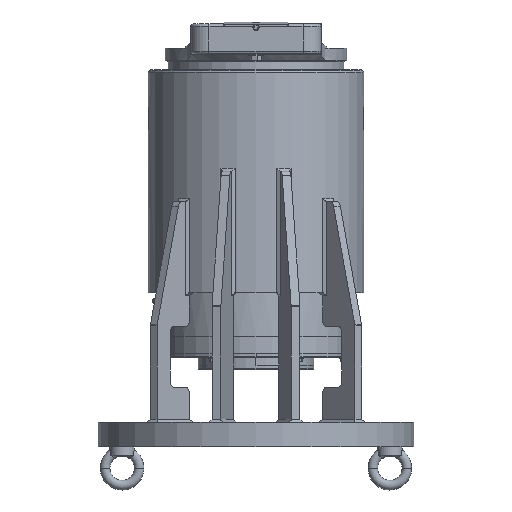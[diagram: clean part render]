
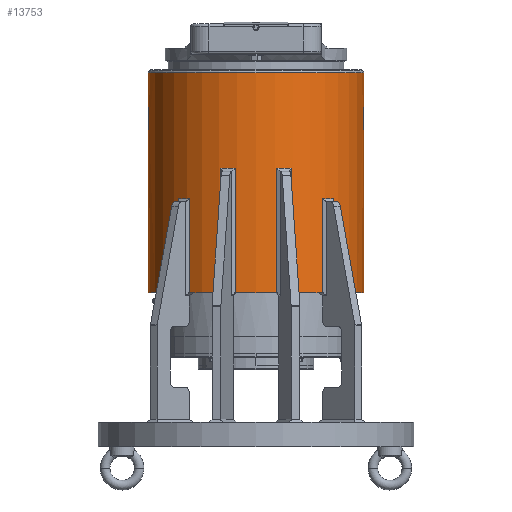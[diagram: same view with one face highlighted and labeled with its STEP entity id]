
A CAD part, front view. The second image highlights one B-rep face of the part: STEP entity #13753.
In plain terms, the highlighted cylindrical face has radius 177.5 mm (diameter 355 mm), a partial arc.
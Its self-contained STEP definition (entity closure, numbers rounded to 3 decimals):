
#12622=CARTESIAN_POINT('',(0.,0.,254.));
#12623=DIRECTION('',(0.,0.,1.));
#12624=DIRECTION('',(-1.,0.,0.));
#12625=AXIS2_PLACEMENT_3D('',#12622,#12623,#12624);
#12654=CARTESIAN_POINT('',(-177.5,0.,
521.));
#12655=CARTESIAN_POINT('',(-177.5,-0.657,
521.));
#12656=CARTESIAN_POINT('',(-177.493,-1.962,
521.064));
#12657=CARTESIAN_POINT('',(-177.46,-3.916,
521.354));
#12658=CARTESIAN_POINT('',(-177.408,-5.809,
521.829));
#12659=CARTESIAN_POINT('',(-177.338,-7.657,
522.489));
#12660=CARTESIAN_POINT('',(-177.251,-9.445,
523.334));
#12661=CARTESIAN_POINT('',(-177.154,-11.12,
524.338));
#12662=CARTESIAN_POINT('',(-177.047,-12.702,
525.51));
#12663=CARTESIAN_POINT('',(-176.936,-14.161,
526.831));
#12664=CARTESIAN_POINT('',(-176.824,-15.489,
528.296));
#12665=CARTESIAN_POINT('',(-176.718,-16.659,
529.875));
#12666=CARTESIAN_POINT('',(-176.619,-17.667,
531.558));
#12667=CARTESIAN_POINT('',(-176.533,-18.511,
533.343));
#12668=CARTESIAN_POINT('',(-176.462,-19.168,
535.182));
#12669=CARTESIAN_POINT('',(-176.409,-19.648,
537.091));
#12670=CARTESIAN_POINT('',(-176.377,-19.938,
539.059));
#12671=CARTESIAN_POINT('',(-176.366,-20.032,
541.023));
#12672=CARTESIAN_POINT('',(-176.377,-19.933,
542.989));
#12673=CARTESIAN_POINT('',(-176.41,-19.643,
544.933));
#12674=CARTESIAN_POINT('',(-176.463,-19.159,
546.848));
#12675=CARTESIAN_POINT('',(-176.533,-18.504,
548.672));
#12676=CARTESIAN_POINT('',(-176.619,-17.669,
550.438));
#12677=CARTESIAN_POINT('',(-176.717,-16.662,
552.12));
#12678=CARTESIAN_POINT('',(-176.824,-15.497,
553.694));
#12679=CARTESIAN_POINT('',(-176.934,-14.18,
555.149));
#12680=CARTESIAN_POINT('',(-177.046,-12.723,
556.474));
#12681=CARTESIAN_POINT('',(-177.154,-11.122,
557.661));
#12682=CARTESIAN_POINT('',(-177.251,-9.449,
558.663));
#12683=CARTESIAN_POINT('',(-177.337,-7.673,
559.504));
#12684=CARTESIAN_POINT('',(-177.408,-5.829,
560.166));
#12685=CARTESIAN_POINT('',(-177.461,-3.906,
560.648));
#12686=CARTESIAN_POINT('',(-177.493,-1.957,
560.936));
#12687=CARTESIAN_POINT('',(-177.5,-0.654,561.));
#12688=CARTESIAN_POINT('',(-177.5,0.,561.));
#12693=DIRECTION('',(0.,0.,-1.));
#12694=VECTOR('',#12693,55.);
#12695=CARTESIAN_POINT('',(177.5,0.,616.));
#12696=LINE('',#12695,#12694);
#12700=DIRECTION('',(0.,0.,-1.));
#12701=VECTOR('',#12700,267.);
#12702=CARTESIAN_POINT('',(177.5,0.,521.));
#12703=LINE('',#12702,#12701);
#12707=DIRECTION('',(0.,0.,-1.));
#12708=VECTOR('',#12707,55.);
#12709=CARTESIAN_POINT('',(-177.5,0.,616.));
#12710=LINE('',#12709,#12708);
#12753=DIRECTION('',(0.,0.,-1.));
#12754=VECTOR('',#12753,267.);
#12755=CARTESIAN_POINT('',(-177.5,0.,
521.));
#12756=LINE('',#12755,#12754);
#12806=CARTESIAN_POINT('',(177.5,0.,521.));
#12807=CARTESIAN_POINT('',(177.5,-0.653,521.));
#12808=CARTESIAN_POINT('',(177.493,-1.961,
521.064));
#12809=CARTESIAN_POINT('',(177.46,-3.925,
521.356));
#12810=CARTESIAN_POINT('',(177.408,-5.825,
521.834));
#12811=CARTESIAN_POINT('',(177.338,-7.663,
522.491));
#12812=CARTESIAN_POINT('',(177.251,-9.449,
523.336));
#12813=CARTESIAN_POINT('',(177.153,-11.126,
524.342));
#12814=CARTESIAN_POINT('',(177.047,-12.705,
525.512));
#12815=CARTESIAN_POINT('',(176.936,-14.165,
526.835));
#12816=CARTESIAN_POINT('',(176.824,-15.491,
528.298));
#12817=CARTESIAN_POINT('',(176.717,-16.666,
529.885));
#12818=CARTESIAN_POINT('',(176.619,-17.672,
531.566));
#12819=CARTESIAN_POINT('',(176.532,-18.516,
533.355));
#12820=CARTESIAN_POINT('',(176.462,-19.175,
535.204));
#12821=CARTESIAN_POINT('',(176.409,-19.649,
537.098));
#12822=CARTESIAN_POINT('',(176.377,-19.939,
539.066));
#12823=CARTESIAN_POINT('',(176.366,-20.032,
541.036));
#12824=CARTESIAN_POINT('',(176.377,-19.932,
542.999));
#12825=CARTESIAN_POINT('',(176.41,-19.64,
544.944));
#12826=CARTESIAN_POINT('',(176.463,-19.158,
546.852));
#12827=CARTESIAN_POINT('',(176.534,-18.498,
548.688));
#12828=CARTESIAN_POINT('',(176.62,-17.659,
550.458));
#12829=CARTESIAN_POINT('',(176.719,-16.647,
552.143));
#12830=CARTESIAN_POINT('',(176.826,-15.473,
553.723));
#12831=CARTESIAN_POINT('',(176.937,-14.154,
555.175));
#12832=CARTESIAN_POINT('',(177.048,-12.692,
556.5));
#12833=CARTESIAN_POINT('',(177.156,-11.088,
557.684));
#12834=CARTESIAN_POINT('',(177.253,-9.412,
558.683));
#12835=CARTESIAN_POINT('',(177.339,-7.637,
559.519));
#12836=CARTESIAN_POINT('',(177.409,-5.788,
560.178));
#12837=CARTESIAN_POINT('',(177.461,-3.881,
560.652));
#12838=CARTESIAN_POINT('',(177.493,-1.95,
560.936));
#12839=CARTESIAN_POINT('',(177.5,-0.65,561.));
#12840=CARTESIAN_POINT('',(177.5,0.,561.));
#13122=CARTESIAN_POINT('',(0.,0.,616.));
#13123=DIRECTION('',(0.,0.,-1.));
#13124=DIRECTION('',(1.,0.,0.));
#13125=AXIS2_PLACEMENT_3D('',#13122,#13123,#13124);
#13555=CARTESIAN_POINT('',(-177.5,0.,254.));
#13556=CARTESIAN_POINT('',(177.5,0.,254.));
#13557=VERTEX_POINT('',#13555);
#13558=VERTEX_POINT('',#13556);
#13559=CARTESIAN_POINT('',(-177.5,0.,
521.));
#13560=VERTEX_POINT('',#13559);
#13561=VERTEX_POINT('',#12688);
#13562=CARTESIAN_POINT('',(-177.5,0.,616.));
#13563=VERTEX_POINT('',#13562);
#13564=CARTESIAN_POINT('',(177.5,0.,616.));
#13565=VERTEX_POINT('',#13564);
#13566=CARTESIAN_POINT('',(177.5,0.,561.));
#13567=VERTEX_POINT('',#13566);
#13568=VERTEX_POINT('',#12806);
#13731=CARTESIAN_POINT('',(0.,0.,621.));
#13732=DIRECTION('',(0.,0.,-1.));
#13733=DIRECTION('',(-1.,0.,0.));
#13734=AXIS2_PLACEMENT_3D('',#13731,#13732,#13733);
#13735=CYLINDRICAL_SURFACE('',#13734,177.5);
#13736=ORIENTED_EDGE('',*,*,#13719,.F.);
#13738=ORIENTED_EDGE('',*,*,#13737,.F.);
#13740=ORIENTED_EDGE('',*,*,#13739,.T.);
#13742=ORIENTED_EDGE('',*,*,#13741,.F.);
#13744=ORIENTED_EDGE('',*,*,#13743,.F.);
#13746=ORIENTED_EDGE('',*,*,#13745,.T.);
#13748=ORIENTED_EDGE('',*,*,#13747,.F.);
#13750=ORIENTED_EDGE('',*,*,#13749,.T.);
#13751=EDGE_LOOP('',(#13736,#13738,#13740,#13742,#13744,#13746,#13748,#13750));
#13752=FACE_OUTER_BOUND('',#13751,.F.);
#13753=ADVANCED_FACE('',(#13752),#13735,.T.);
#12626=CIRCLE('',#12625,177.5);
#12689=B_SPLINE_CURVE_WITH_KNOTS('',3,(#12654,#12655,#12656,#12657,#12658,
#12659,#12660,#12661,#12662,#12663,#12664,#12665,#12666,#12667,#12668,#12669,
#12670,#12671,#12672,#12673,#12674,#12675,#12676,#12677,#12678,#12679,#12680,
#12681,#12682,#12683,#12684,#12685,#12686,#12687,#12688),.UNSPECIFIED.,.F.,.F.,(
4,1,1,1,1,1,1,1,1,1,1,1,1,1,1,1,1,1,1,1,1,1,1,1,1,1,1,1,1,1,1,1,4),(0.,
0.031,0.063,0.094,0.125,0.156,0.188,0.219,0.25,0.281,
0.313,0.344,0.375,0.406,0.438,0.469,0.5,0.531,
0.563,0.594,0.625,0.656,0.688,0.719,0.75,0.781,
0.813,0.844,0.875,0.906,0.938,0.969,1.),.UNSPECIFIED.);
#12841=B_SPLINE_CURVE_WITH_KNOTS('',3,(#12806,#12807,#12808,#12809,#12810,
#12811,#12812,#12813,#12814,#12815,#12816,#12817,#12818,#12819,#12820,#12821,
#12822,#12823,#12824,#12825,#12826,#12827,#12828,#12829,#12830,#12831,#12832,
#12833,#12834,#12835,#12836,#12837,#12838,#12839,#12840),.UNSPECIFIED.,.F.,.F.,(
4,1,1,1,1,1,1,1,1,1,1,1,1,1,1,1,1,1,1,1,1,1,1,1,1,1,1,1,1,1,1,1,4),(0.,
0.031,0.063,0.094,0.125,0.156,0.188,0.219,0.25,0.281,
0.313,0.344,0.375,0.406,0.438,0.469,0.5,0.531,
0.563,0.594,0.625,0.656,0.688,0.719,0.75,0.781,
0.813,0.844,0.875,0.906,0.938,0.969,1.),.UNSPECIFIED.);
#13126=CIRCLE('',#13125,177.5);
#13719=EDGE_CURVE('',#13557,#13558,#12626,.T.);
#13737=EDGE_CURVE('',#13560,#13557,#12756,.T.);
#13739=EDGE_CURVE('',#13560,#13561,#12689,.T.);
#13741=EDGE_CURVE('',#13563,#13561,#12710,.T.);
#13743=EDGE_CURVE('',#13565,#13563,#13126,.T.);
#13745=EDGE_CURVE('',#13565,#13567,#12696,.T.);
#13747=EDGE_CURVE('',#13568,#13567,#12841,.T.);
#13749=EDGE_CURVE('',#13568,#13558,#12703,.T.);
